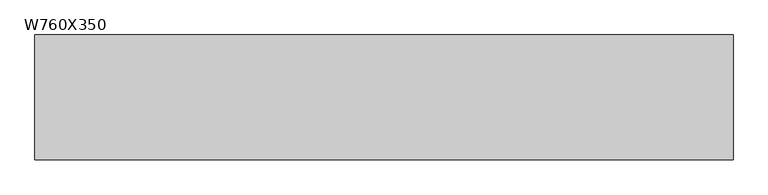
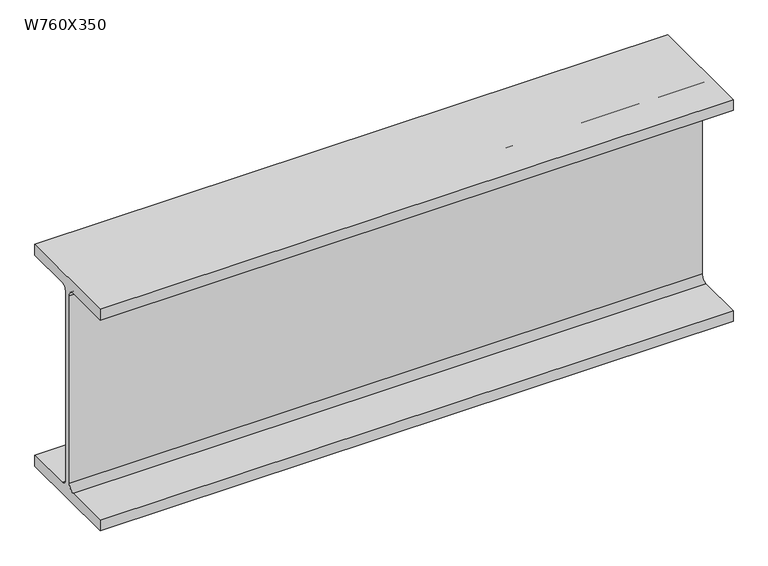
"""IFC4 building model written with IfcOpenShell, lengths in millimetres: beam geometry, M_W-Wide Flange : W760X350."""

from ifc_helpers import new_model, si_unit, point, frame, frame_2d, origin, place, context, project, spatial, polyline, circle_curve, trimmed, segment, composite_curve, outline, extrude, source, transform, mapped, element, save


def w760x350_95a3d9c9(model_context):
    return source(origin(), model_context, "Body", "SweptSolid", [
        extrude(outline(composite_curve([segment(polyline([(192.0, -359.4), (192.0, -397.5), (-192.0, -397.5), (-192.0, -359.4), (-32.75, -359.4)]), True, "CONTINUOUS"), segment(trimmed(circle_curve(frame_2d((-32.75, -337.2)), 22.2), [point((-32.75, -359.4))], [point((-10.55, -337.2))], True, "CARTESIAN"), True, "CONTINUOUS"), segment(polyline([(-10.55, -337.2), (-10.55, 337.2)]), True, "CONTINUOUS"), segment(trimmed(circle_curve(frame_2d((-32.75, 337.2)), 22.2), [point((-10.55, 337.2))], [point((-32.75, 359.4))], True, "CARTESIAN"), True, "CONTINUOUS"), segment(polyline([(-32.75, 359.4), (-192.0, 359.4), (-192.0, 397.5), (192.0, 397.5), (192.0, 359.4), (32.75, 359.4)]), True, "CONTINUOUS"), segment(trimmed(circle_curve(frame_2d((32.75, 337.2)), 22.2), [point((32.75, 359.4))], [point((10.55, 337.2))], True, "CARTESIAN"), True, "CONTINUOUS"), segment(polyline([(10.55, 337.2), (10.55, -337.2)]), True, "CONTINUOUS"), segment(trimmed(circle_curve(frame_2d((32.75, -337.2)), 22.2), [point((10.55, -337.2))], [point((32.75, -359.4))], True, "CARTESIAN"), True, "CONTINUOUS"), segment(polyline([(32.75, -359.4), (192.0, -359.4)]), True, "CONTINUOUS")], self_intersect=False)), frame((-1648.6532017, 0.0, 0.0), z_axis=(1.0, 0.0, 0.0), x_axis=(0.0, 1.0, 0.0)), (0.0, 0.0, 1.0), 2147.5829882),
    ])


if __name__ == "__main__":
    model = new_model("IFC4")
    model_context = context("Model", 3, world=origin())
    ifc_project = project(units=[si_unit("LENGTHUNIT", "METRE", prefix="MILLI")], contexts=[model_context])
    site = spatial("IfcSite", under=ifc_project)
    building = spatial("IfcBuilding", under=site)
    placement = place(None, origin())
    w760x350_shape = w760x350_95a3d9c9(model_context)
    element("IfcBeam", 1, ObjectType="M_W-Wide Flange : W760X350", at=placement, inside=building, context=model_context, shape_type="MappedRepresentation", body=[
        mapped(w760x350_shape, transform((0.0, 0.0, 0.0), x_axis=(1.0, 0.0, 0.0), y_axis=(0.0, 1.0, 0.0), z_axis=(0.0, 0.0, 1.0))),
    ])
    save(model, "model.ifc")
